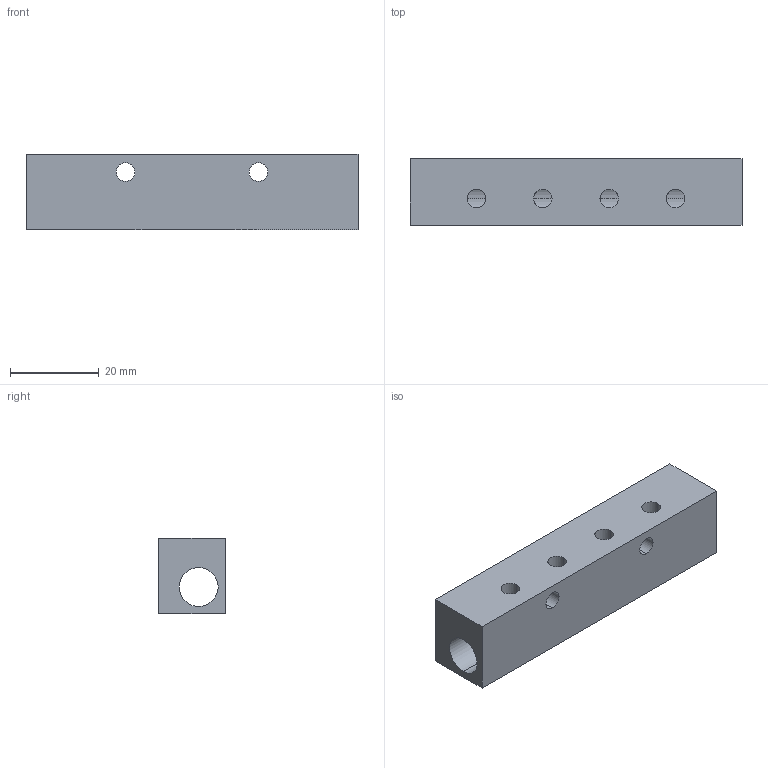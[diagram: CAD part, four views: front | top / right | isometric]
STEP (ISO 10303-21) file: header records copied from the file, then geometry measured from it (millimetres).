
FILE_DESCRIPTION (( 'STEP AP214' ), '1' );
FILE_NAME ('SMB-08M5-02G18.STEP', '2019-11-06T03:07:46', ( '微软用户' ), ( '微软中国' ), 'SwSTEP 2.0', 'SolidWorks 2016', '' );
FILE_SCHEMA (( 'AUTOMOTIVE_DESIGN' ));
Length unit declared in the file: millimetre
Products named in the file (1): SMB-08M5-02G18
Bounding box: 75 x 15 x 17 mm (x, y, z)
Volume: 13512.8 mm3; surface area: 7995.9 mm2
Topology: 1 solids, 1 shells, 28 faces, 82 edges, 52 vertices
Faces by surface type: cylinder 22, plane 6
Entity records: 1594 total; most frequent: CARTESIAN_POINT 627, ORIENTED_EDGE 164, DIRECTION 152, EDGE_CURVE 82, AXIS2_PLACEMENT_3D 57, VERTEX_POINT 52, EDGE_LOOP 46, LINE 38
